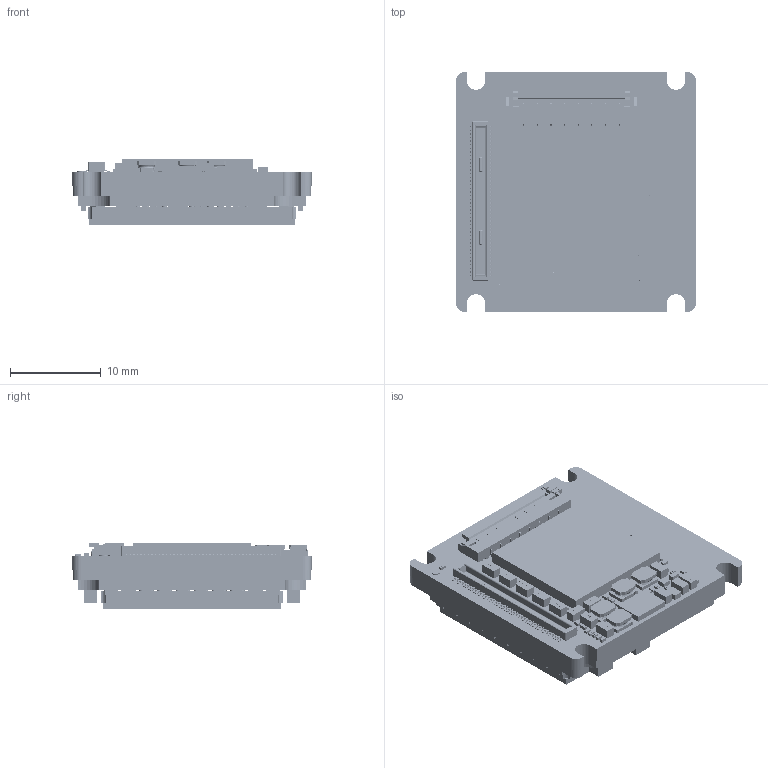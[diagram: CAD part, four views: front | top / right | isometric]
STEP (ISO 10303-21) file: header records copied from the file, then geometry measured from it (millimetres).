
FILE_DESCRIPTION (( 'STEP AP214' ), '1' );
FILE_NAME ('Alvium-CSI2-Bare-Board-IMX23x20.STEP', '2022-12-21T14:12:06', ( '' ), ( '' ), 'SwSTEP 2.0', 'SolidWorks 2021', '' );
FILE_SCHEMA (( 'AUTOMOTIVE_DESIGN' ));
Length unit declared in the file: millimetre
Products named in the file (1): Alvium-CSI2-Bare-Board-IMX23x20
Bounding box: 26.4 x 26.4 x 7.3 mm (x, y, z)
Volume: 3168.5 mm3; surface area: 5234.6 mm2
Topology: 135 solids, 136 shells, 9302 faces, 23701 edges, 15586 vertices
Faces by surface type: plane 4732, bspline 3516, cylinder 1022, torus 28, cone 4
Entity records: 583636 total; most frequent: CARTESIAN_POINT 277564, ORIENTED_EDGE 47402, DIRECTION 30255, EDGE_CURVE 23701, VERTEX_POINT 15588, LINE 14521, VECTOR 14521, EDGE_LOOP 10237
